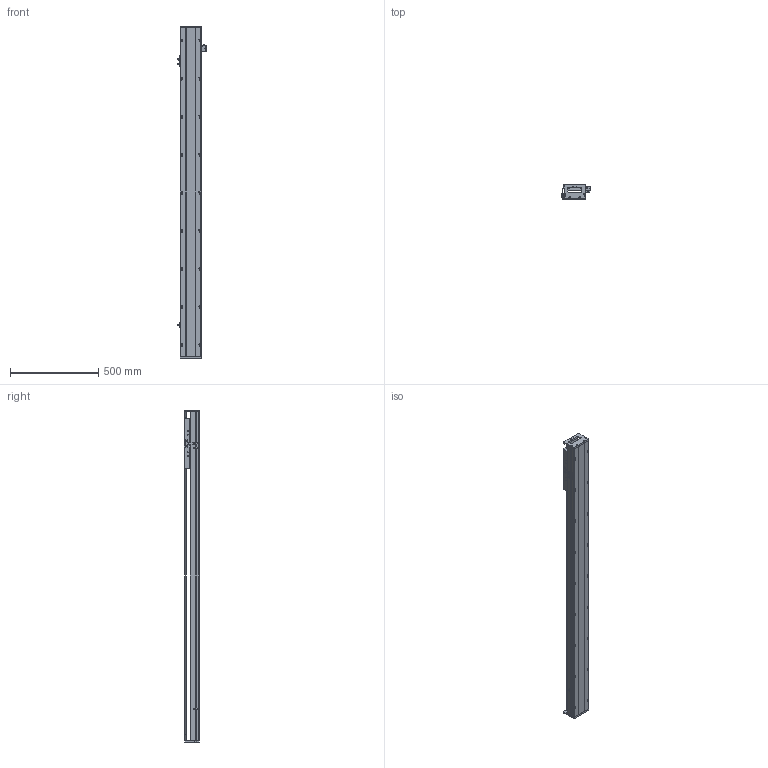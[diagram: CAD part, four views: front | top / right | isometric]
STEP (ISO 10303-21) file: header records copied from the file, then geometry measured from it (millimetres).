
FILE_DESCRIPTION (( 'STEP AP203' ), '1' );
FILE_NAME ('SKR12S-C2-S1504（简）.STEP', '2022-09-26T05:22:49', ( '' ), ( '' ), 'SwSTEP 2.0', 'SolidWorks 2018', '' );
FILE_SCHEMA (( 'CONFIG_CONTROL_DESIGN' ));
Length unit declared in the file: millimetre
Products named in the file (8): 覜茼え; EE-SX672; SKR12菁釱-C2-S1504(潠); 棠掑假蚾輸; SIKO棠掑; SKR12S-C2-S1504（简）; SKR12滑台-280L（简）; SKR12耜啣
Assembly tree (10 placements, depth 2):
  SKR12S-C2-S1504（简）
    SKR12菁釱-C2-S1504(潠)
    SKR12滑台-280L（简）
    SKR12耜啣  x2
    棠掑假蚾輸
    SIKO棠掑
    EE-SX672  x3
    覜茼え
Bounding box: 162.7 x 87.3 x 1884 mm (x, y, z)
Volume: 8459173.5 mm3; surface area: 1332641.5 mm2
Topology: 11 solids, 11 shells, 1062 faces, 2837 edges, 1791 vertices
Faces by surface type: cylinder 504, plane 412, cone 146
Entity records: 29559 total; most frequent: CARTESIAN_POINT 6223, DIRECTION 4817, ORIENTED_EDGE 4614, EDGE_CURVE 2307, AXIS2_PLACEMENT_3D 1793, VERTEX_POINT 1495, VECTOR 1231, LINE 1231
